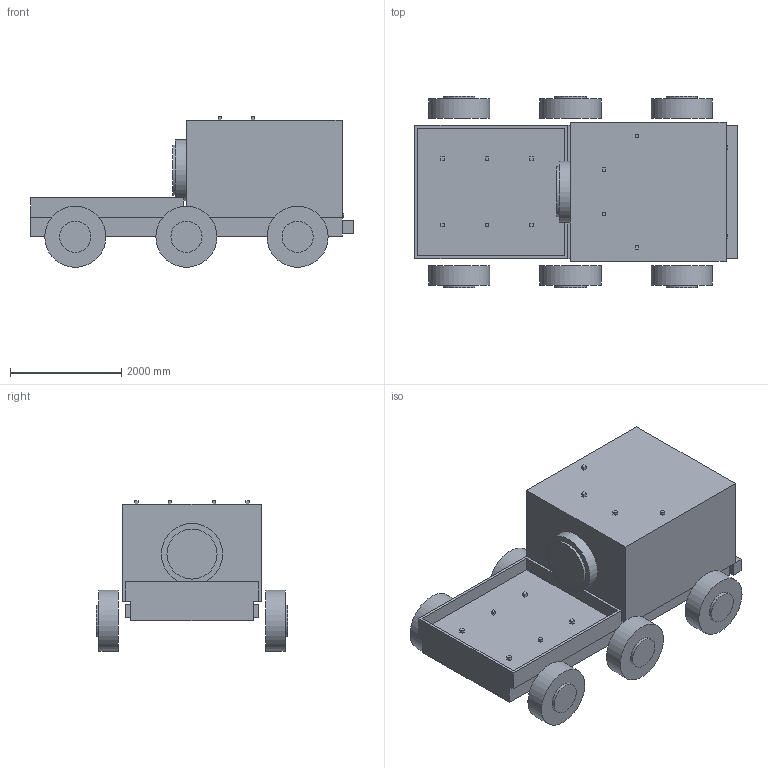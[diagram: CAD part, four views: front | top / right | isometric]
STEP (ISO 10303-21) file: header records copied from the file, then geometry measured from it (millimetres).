
FILE_DESCRIPTION(/* description */ (''),/* implementation_level */ '2;1');
FILE_NAME(/* name */ 'crew_pressurised.step',/* time_stamp */ '2026-11-14T21:10:57+01:00',/* author */ ('malgo'),/* organization */ (''),/* preprocessor_version */ 'ST-DEVELOPER v20.1',/* originating_system */ 'Autodesk Inventor 2026',/* authorisation */ '');
FILE_SCHEMA (('AUTOMOTIVE_DESIGN { 1 0 10303 214 3 1 1 }'));
Length unit declared in the file: metre
Products named in the file (1): crew_pressurised
Bounding box: 5800 x 3450 x 2710 mm (x, y, z)
Volume: 19503532985.7 mm3; surface area: 82248794.5 mm2
Topology: 25 solids, 25 shells, 146 faces, 278 edges, 184 vertices
Faces by surface type: plane 132, cylinder 14
Full cylindrical faces by diameter (mm): 560 x6, 900 x1, 1100 x7
Entity records: 3637 total; most frequent: CARTESIAN_POINT 609, DIRECTION 602, ORIENTED_EDGE 556, EDGE_CURVE 278, LINE 248, VECTOR 248, VERTEX_POINT 184, AXIS2_PLACEMENT_3D 177
